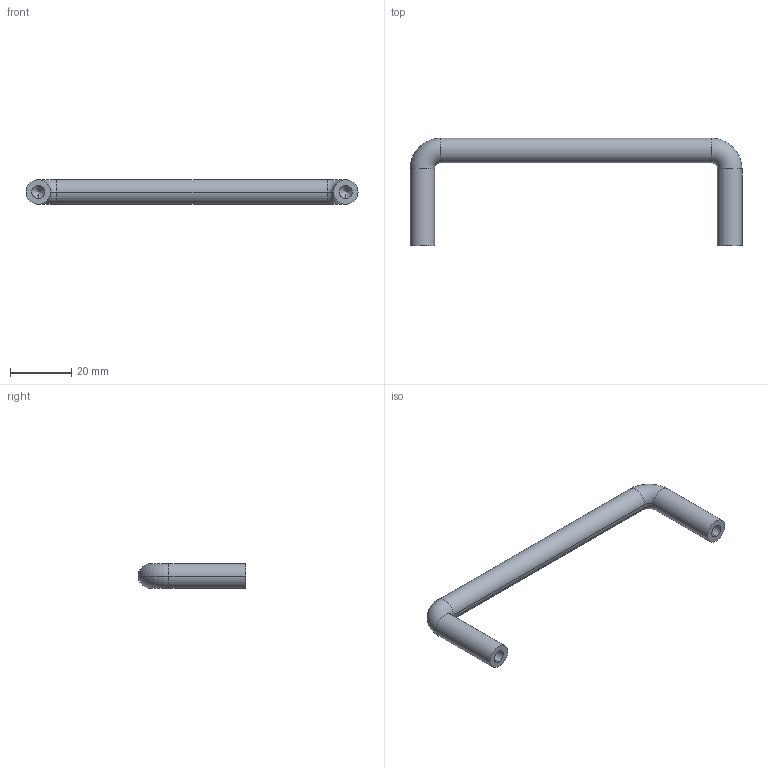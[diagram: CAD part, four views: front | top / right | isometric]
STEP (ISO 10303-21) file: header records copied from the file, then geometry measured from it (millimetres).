
FILE_DESCRIPTION (( 'STEP AP203' ), '1' );
FILE_NAME ('SK4-012-100W.STEP', '2018-11-02T04:02:08', ( 'admin' ), ( 'Microsoft' ), 'SwSTEP 2.0', 'SolidWorks 2015', '' );
FILE_SCHEMA (( 'CONFIG_CONTROL_DESIGN' ));
Length unit declared in the file: millimetre
Products named in the file (1): SK4-012-100W
Bounding box: 108 x 35 x 8 mm (x, y, z)
Volume: 7476.8 mm3; surface area: 4423.5 mm2
Topology: 1 solids, 1 shells, 20 faces, 42 edges, 22 vertices
Faces by surface type: cylinder 10, torus 4, cone 4, plane 2
Entity records: 583 total; most frequent: DIRECTION 104, CARTESIAN_POINT 81, ORIENTED_EDGE 76, AXIS2_PLACEMENT_3D 45, EDGE_CURVE 38, CIRCLE 24, EDGE_LOOP 22, VERTEX_POINT 22
